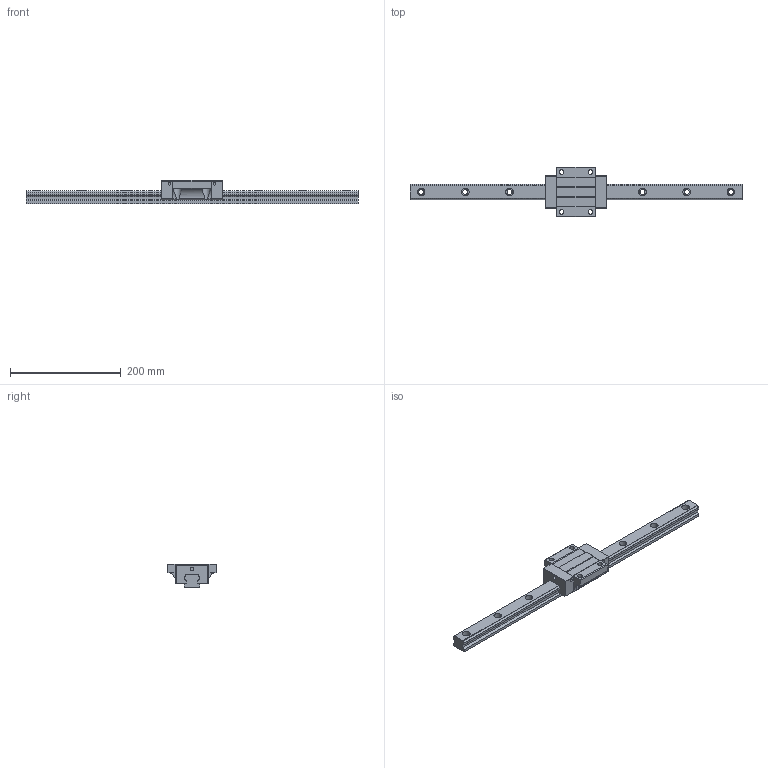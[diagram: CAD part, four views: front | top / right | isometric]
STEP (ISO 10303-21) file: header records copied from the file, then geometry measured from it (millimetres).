
FILE_DESCRIPTION (( 'STEP AP203' ), '1' );
FILE_NAME ('TRH30FN-SZ.STEP', '2024-06-26T06:30:11', ( '' ), ( '' ), 'SwSTEP 2.0', 'SolidWorks 2022', '' );
FILE_SCHEMA (( 'CONFIG_CONTROL_DESIGN' ));
Length unit declared in the file: millimetre
Products named in the file (1): TRH30FN-SZ
Bounding box: 600 x 90 x 42 mm (x, y, z)
Volume: 526986.9 mm3; surface area: 105013.3 mm2
Topology: 2 solids, 2 shells, 214 faces, 580 edges, 380 vertices
Faces by surface type: cylinder 116, plane 94, sphere 4
Entity records: 7507 total; most frequent: CARTESIAN_POINT 1871, DIRECTION 1184, ORIENTED_EDGE 1152, EDGE_CURVE 576, AXIS2_PLACEMENT_3D 421, VERTEX_POINT 380, VECTOR 342, LINE 342
